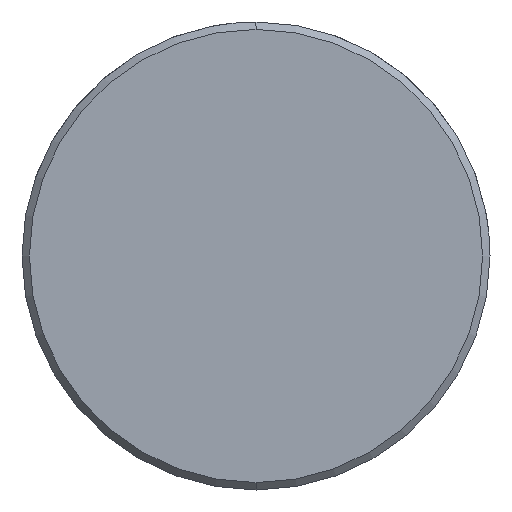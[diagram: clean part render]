
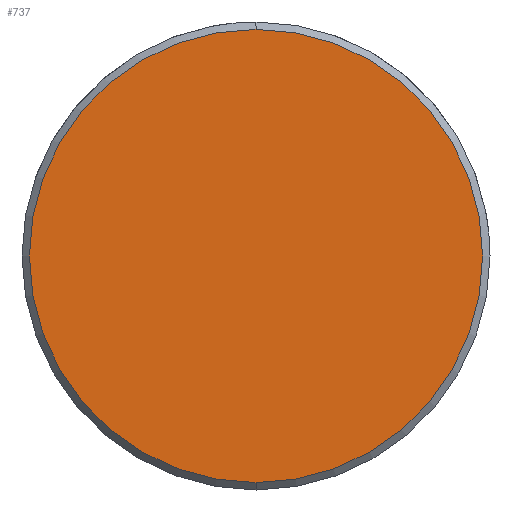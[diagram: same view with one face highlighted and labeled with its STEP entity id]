
A CAD part, left-side view. The second image highlights one B-rep face of the part: STEP entity #737.
In plain terms, the highlighted planar face has unit normal (-1, 0, 0).
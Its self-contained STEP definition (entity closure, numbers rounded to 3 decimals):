
#669=CARTESIAN_POINT('Vertex',(0.,0.,-9.2)) ;
#672=CARTESIAN_POINT('Axis2P3D Location',(0.,0.,0.)) ;
#676=CARTESIAN_POINT('Vertex',(0.,9.2,0.)) ;
#679=CARTESIAN_POINT('Axis2P3D Location',(0.,0.,0.)) ;
#683=CARTESIAN_POINT('Vertex',(0.,0.,9.2)) ;
#705=CARTESIAN_POINT('Axis2P3D Location',(0.,0.,0.)) ;
#709=CARTESIAN_POINT('Vertex',(0.,-9.2,0.)) ;
#712=CARTESIAN_POINT('Axis2P3D Location',(0.,0.,0.)) ;
#726=CARTESIAN_POINT('Axis2P3D Location',(0.,0.,0.)) ;
#673=DIRECTION('Axis2P3D Direction',(1.,0.,-0.)) ;
#680=DIRECTION('Axis2P3D Direction',(1.,0.,-0.)) ;
#706=DIRECTION('Axis2P3D Direction',(1.,0.,-0.)) ;
#713=DIRECTION('Axis2P3D Direction',(1.,0.,-0.)) ;
#727=DIRECTION('Axis2P3D Direction',(1.,0.,-0.)) ;
#728=DIRECTION('Axis2P3D XDirection',(-0.,0.,-1.)) ;
#674=AXIS2_PLACEMENT_3D('Circle Axis2P3D',#672,#673,$) ;
#681=AXIS2_PLACEMENT_3D('Circle Axis2P3D',#679,#680,$) ;
#707=AXIS2_PLACEMENT_3D('Circle Axis2P3D',#705,#706,$) ;
#714=AXIS2_PLACEMENT_3D('Circle Axis2P3D',#712,#713,$) ;
#729=AXIS2_PLACEMENT_3D('Plane Axis2P3D',#726,#727,#728) ;
#732=ORIENTED_EDGE('',*,*,#678,.F.) ;
#733=ORIENTED_EDGE('',*,*,#716,.F.) ;
#734=ORIENTED_EDGE('',*,*,#711,.F.) ;
#735=ORIENTED_EDGE('',*,*,#685,.F.) ;
#737=ADVANCED_FACE('549-16X200',(#736),#730,.F.) ;
#675=CIRCLE('generated circle',#674,9.2) ;
#682=CIRCLE('generated circle',#681,9.2) ;
#708=CIRCLE('generated circle',#707,9.2) ;
#715=CIRCLE('generated circle',#714,9.2) ;
#678=EDGE_CURVE('',#670,#677,#675,.T.) ;
#685=EDGE_CURVE('',#677,#684,#682,.T.) ;
#711=EDGE_CURVE('',#684,#710,#708,.T.) ;
#716=EDGE_CURVE('',#710,#670,#715,.T.) ;
#731=EDGE_LOOP('',(#732,#733,#734,#735)) ;
#736=FACE_OUTER_BOUND('',#731,.T.) ;
#730=PLANE('Plane',#729) ;
#670=VERTEX_POINT('',#669) ;
#677=VERTEX_POINT('',#676) ;
#684=VERTEX_POINT('',#683) ;
#710=VERTEX_POINT('',#709) ;
